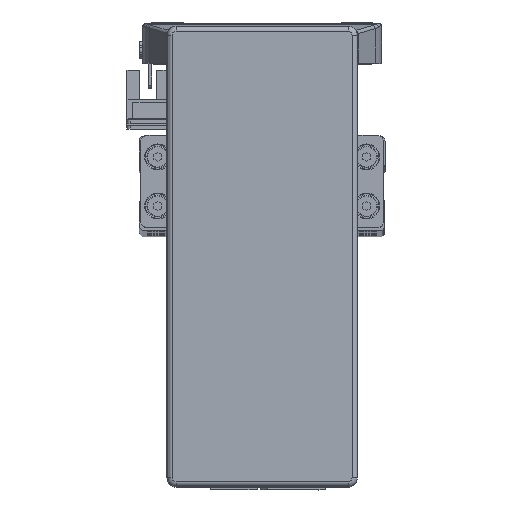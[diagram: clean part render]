
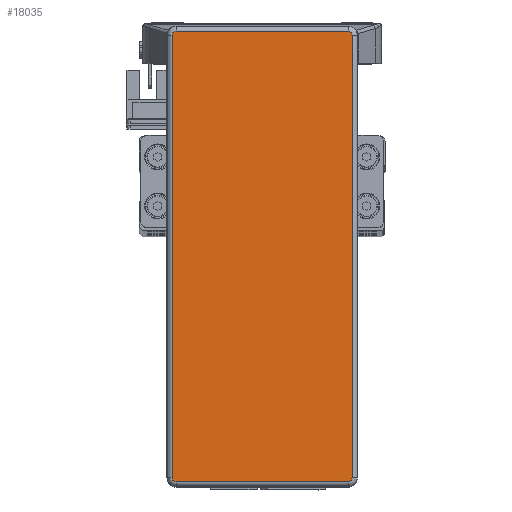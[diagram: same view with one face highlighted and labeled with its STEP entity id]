
A CAD part, top view. The second image highlights one B-rep face of the part: STEP entity #18035.
In plain terms, the highlighted planar face has unit normal (0, 0, 1) as drawn and (0, 0, -1) by its records, which use the part's own axes.
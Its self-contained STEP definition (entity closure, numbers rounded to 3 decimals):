
#2273 = CARTESIAN_POINT ( 'NONE',  ( 73.295, -27.995, -32.2 ) ) ;
#2293 = CARTESIAN_POINT ( 'NONE',  ( 71.995, -29.295, -32.2 ) ) ;
#2350 = CARTESIAN_POINT ( 'NONE',  ( -73.295, 27.995, -32.2 ) ) ;
#2372 = CARTESIAN_POINT ( 'NONE',  ( -73.295, -27.995, -32.2 ) ) ;
#2373 = CARTESIAN_POINT ( 'NONE',  ( 73.295, 27.995, -32.2 ) ) ;
#2397 = CARTESIAN_POINT ( 'NONE',  ( -71.995, 29.295, -32.2 ) ) ;
#2408 = CARTESIAN_POINT ( 'NONE',  ( -71.995, -29.295, -32.2 ) ) ;
#2442 = CARTESIAN_POINT ( 'NONE',  ( 71.995, 29.295, -32.2 ) ) ;
#15752 = CIRCLE ( 'NONE', #16092, 1.3 ) ;
#15789 = VECTOR ( 'NONE', #18315, 1000. ) ;
#15800 = VECTOR ( 'NONE', #18656, 1000. ) ;
#15807 = LINE ( 'NONE', #18624, #15888 ) ;
#15812 = LINE ( 'NONE', #18592, #15800 ) ;
#15823 = CIRCLE ( 'NONE', #16105, 1.3 ) ;
#15827 = LINE ( 'NONE', #18297, #15789 ) ;
#15831 = CIRCLE ( 'NONE', #16132, 1.3 ) ;
#15834 = CIRCLE ( 'NONE', #16123, 1.3 ) ;
#15847 = LINE ( 'NONE', #18696, #15851 ) ;
#15851 = VECTOR ( 'NONE', #18670, 1000. ) ;
#15888 = VECTOR ( 'NONE', #18651, 1000. ) ;
#16092 = AXIS2_PLACEMENT_3D ( 'NONE', #18201, #18188, #18214 ) ;
#16105 = AXIS2_PLACEMENT_3D ( 'NONE', #18230, #18231, #18233 ) ;
#16123 = AXIS2_PLACEMENT_3D ( 'NONE', #18341, #18322, #18269 ) ;
#16132 = AXIS2_PLACEMENT_3D ( 'NONE', #18490, #18456, #18439 ) ;
#18035 = ADVANCED_FACE ( 'NONE', ( #47136 ), #46728, .F. ) ;
#18188 = DIRECTION ( 'NONE',  ( 0., 0., -1. ) ) ;
#18201 = CARTESIAN_POINT ( 'NONE',  ( 71.995, -27.995, -32.2 ) ) ;
#18214 = DIRECTION ( 'NONE',  ( 1., 0., 0. ) ) ;
#18230 = CARTESIAN_POINT ( 'NONE',  ( -71.995, -27.995, -32.2 ) ) ;
#18231 = DIRECTION ( 'NONE',  ( 0., 0., -1. ) ) ;
#18233 = DIRECTION ( 'NONE',  ( 1., 0., 0. ) ) ;
#18269 = DIRECTION ( 'NONE',  ( 1., 0., 0. ) ) ;
#18297 = CARTESIAN_POINT ( 'NONE',  ( 71.995, 29.295, -32.2 ) ) ;
#18315 = DIRECTION ( 'NONE',  ( 1., 0., 0. ) ) ;
#18322 = DIRECTION ( 'NONE',  ( 0., 0., -1. ) ) ;
#18341 = CARTESIAN_POINT ( 'NONE',  ( -71.995, 27.995, -32.2 ) ) ;
#18439 = DIRECTION ( 'NONE',  ( 1., 0., 0. ) ) ;
#18456 = DIRECTION ( 'NONE',  ( 0., 0., -1. ) ) ;
#18490 = CARTESIAN_POINT ( 'NONE',  ( 71.995, 27.995, -32.2 ) ) ;
#18592 = CARTESIAN_POINT ( 'NONE',  ( 73.295, -27.995, -32.2 ) ) ;
#18624 = CARTESIAN_POINT ( 'NONE',  ( 71.995, -29.295, -32.2 ) ) ;
#18651 = DIRECTION ( 'NONE',  ( -1., 0., 0. ) ) ;
#18656 = DIRECTION ( 'NONE',  ( 0., -1., 0. ) ) ;
#18670 = DIRECTION ( 'NONE',  ( 0., 1., 0. ) ) ;
#18696 = CARTESIAN_POINT ( 'NONE',  ( -73.295, -27.995, -32.2 ) ) ;
#19592 = VERTEX_POINT ( 'NONE', #2273 ) ;
#19593 = VERTEX_POINT ( 'NONE', #2293 ) ;
#19621 = VERTEX_POINT ( 'NONE', #2372 ) ;
#19623 = VERTEX_POINT ( 'NONE', #2373 ) ;
#19642 = VERTEX_POINT ( 'NONE', #2350 ) ;
#19662 = VERTEX_POINT ( 'NONE', #2397 ) ;
#19673 = VERTEX_POINT ( 'NONE', #2442 ) ;
#19676 = VERTEX_POINT ( 'NONE', #2408 ) ;
#23098 = EDGE_LOOP ( 'NONE', ( #28576, #28543, #28586, #28599, #28518, #28588, #28589, #28601 ) ) ;
#26837 = EDGE_CURVE ( 'NONE', #19592, #19593, #15752, .T. ) ;
#26846 = EDGE_CURVE ( 'NONE', #19676, #19621, #15823, .T. ) ;
#26854 = EDGE_CURVE ( 'NONE', #19662, #19673, #15827, .T. ) ;
#26856 = EDGE_CURVE ( 'NONE', #19642, #19662, #15834, .T. ) ;
#26871 = EDGE_CURVE ( 'NONE', #19673, #19623, #15831, .T. ) ;
#26889 = EDGE_CURVE ( 'NONE', #19623, #19592, #15812, .T. ) ;
#26893 = EDGE_CURVE ( 'NONE', #19593, #19676, #15807, .T. ) ;
#26911 = EDGE_CURVE ( 'NONE', #19621, #19642, #15847, .T. ) ;
#28518 = ORIENTED_EDGE ( 'NONE', *, *, #26911, .T. ) ;
#28543 = ORIENTED_EDGE ( 'NONE', *, *, #26837, .T. ) ;
#28576 = ORIENTED_EDGE ( 'NONE', *, *, #26889, .T. ) ;
#28586 = ORIENTED_EDGE ( 'NONE', *, *, #26893, .T. ) ;
#28588 = ORIENTED_EDGE ( 'NONE', *, *, #26856, .T. ) ;
#28589 = ORIENTED_EDGE ( 'NONE', *, *, #26854, .T. ) ;
#28599 = ORIENTED_EDGE ( 'NONE', *, *, #26846, .T. ) ;
#28601 = ORIENTED_EDGE ( 'NONE', *, *, #26871, .T. ) ;
#43255 = AXIS2_PLACEMENT_3D ( 'NONE', #46720, #46740, #46721 ) ;
#46720 = CARTESIAN_POINT ( 'NONE',  ( 71.995, -27.995, -32.2 ) ) ;
#46721 = DIRECTION ( 'NONE',  ( 1., 0., 0. ) ) ;
#46728 = PLANE ( 'NONE',  #43255 ) ;
#46740 = DIRECTION ( 'NONE',  ( 0., 0., 1. ) ) ;
#47136 = FACE_OUTER_BOUND ( 'NONE', #23098, .T. ) ;
